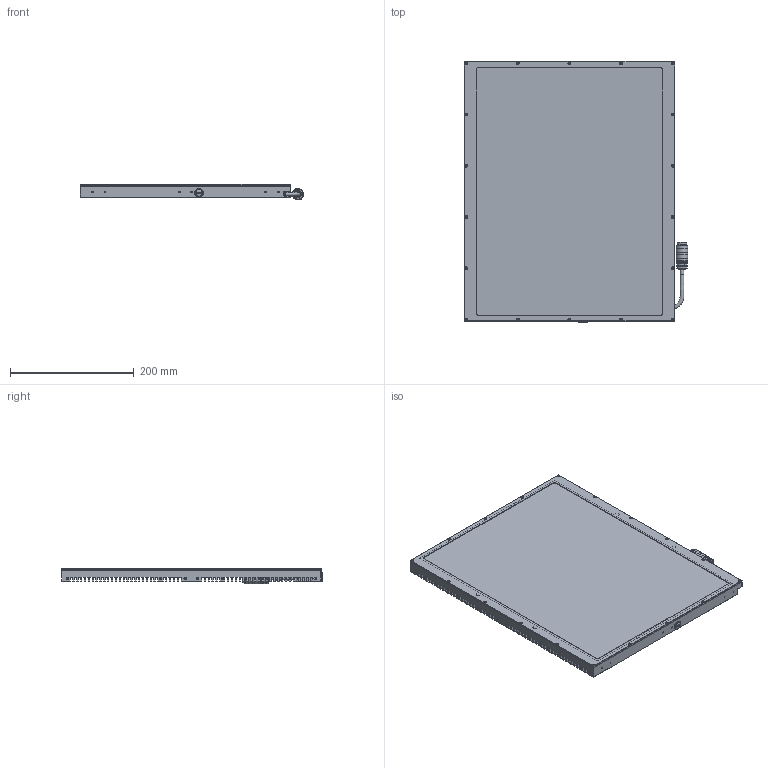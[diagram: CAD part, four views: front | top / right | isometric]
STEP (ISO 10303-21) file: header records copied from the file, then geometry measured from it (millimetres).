
FILE_DESCRIPTION(/* description */ ('CAx-IF Rec.Pracs.---Representation and Presentation of Product Manufacturing Information (PMI)---4.0---2014-10-13','CAx-IF Rec.Pracs.---3D Tessellated Geometry---0.4---2014-09-14','2;1'),/* implementation_level */ '2;1');
FILE_NAME(/* name */ 'LG4030-LG4030FL-V02',/* time_stamp */ '2019-12-03T12:28:09+01:00',/* author */ (''),/* organization */ ('iiM AG'),/* preprocessor_version */ 'ST-DEVELOPER v16.7',/* originating_system */ 'DEX',/* authorisation */ $);
FILE_SCHEMA (('AP242_MANAGED_MODEL_BASED_3D_ENGINEERING_MIM_LF { 1 0 10303 442 1 1 4 }'));
Products named in the file (1): LG4030-V02_MO
Bounding box: 361.29 x 421.95 x 25.79 mm (x, y, z)
Volume: 1351019.6 mm3; surface area: 895261.4 mm2
Topology: 2 solids, 21 shells, 1709 faces, 4672 edges, 3024 vertices
Faces by surface type: plane 847, cylinder 551, cone 258, torus 22, bspline 18, sphere 13
Full cylindrical faces by diameter (mm): 1 x12, 1.567 x36, 2 x18, 2.1 x14, 2.11 x4, 2.459 x4, 2.6 x4, 3.8 x18, 4.134 x62, 6 x2, 6.2 x1, 8 x1, 9 x1, 11 x3, 11.89 x1, 14 x1, 15 x1, 16 x1, 17.5 x1, 18.5 x3, 18.6 x2, 49.5 x1, 50 x1, 51 x1
Entity records: 68112 total; most frequent: CARTESIAN_POINT 16576, ORIENTED_EDGE 8056, DIRECTION 7707, EDGE_CURVE 4028, VERTEX_POINT 2825, AXIS2_PLACEMENT_3D 2723, LINE 2261, VECTOR 2261
